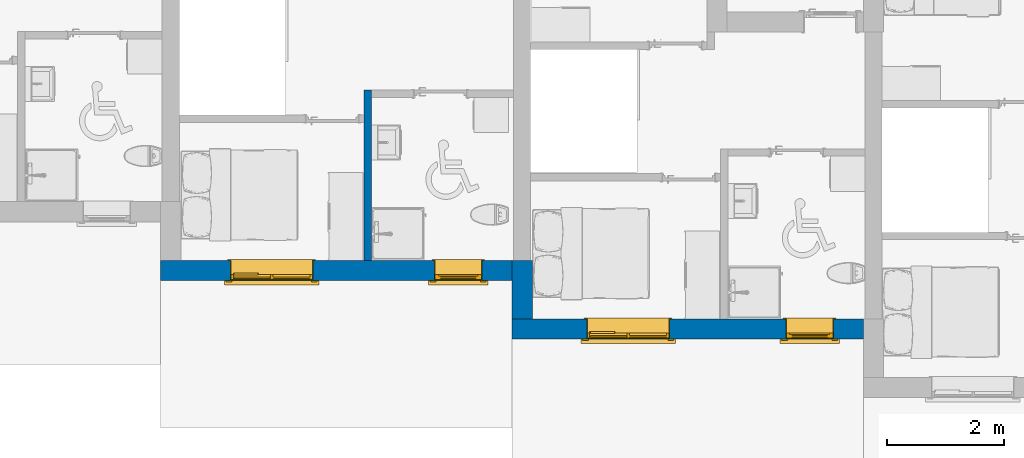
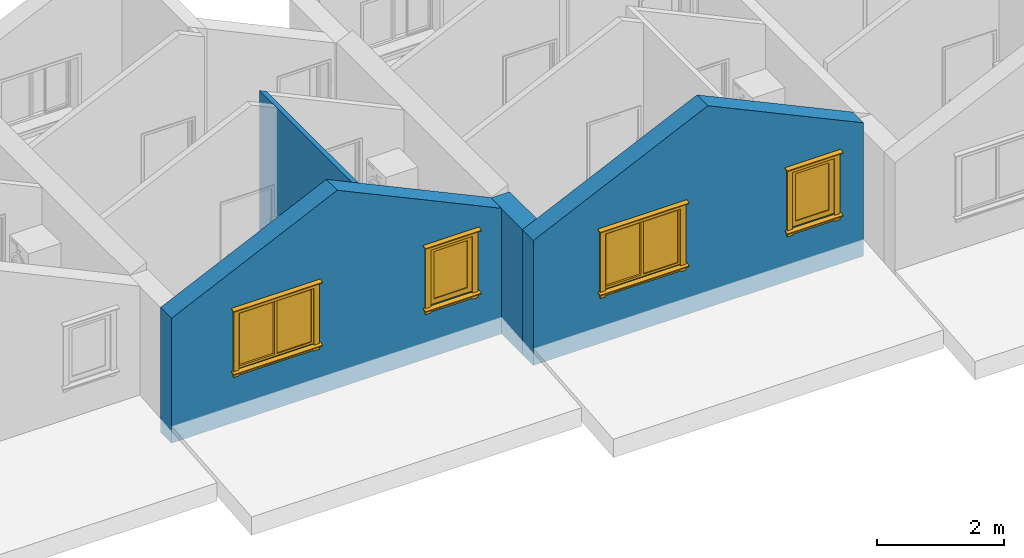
# One storey, part 8 of 44: 4 walls, 4 windows, 4 openings.
"""IFC2X3 building model written with IfcOpenShell, lengths in millimetres."""

from ifc_helpers import new_model, entity, si_unit, converted_unit, direction, frame, frame_2d, origin, place, context, subcontext, project, spatial, polyline, rectangle, extrude, clip, bounded_halfspace, faceted_brep, source, transform, mapped, material, material_list, layer, layer_set, layer_usage, type_object, type_shapes, element, fill, save


model = new_model("IFC2X3")

# Units and contexts
model_context = context("Model", 3, precision=0.01, world=origin(), true_north=direction((0.0, 1.0)))
body_context = subcontext(model_context, "Body", "Model", "MODEL_VIEW")
ifc_project = project(units=[si_unit("LENGTHUNIT", "METRE", prefix="MILLI"), si_unit("AREAUNIT", "SQUARE_METRE"), si_unit("VOLUMEUNIT", "CUBIC_METRE"), converted_unit("PLANEANGLEUNIT", "DEGREE", entity("IfcPlaneAngleMeasure", 0.017453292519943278), si_unit("PLANEANGLEUNIT", "RADIAN"), dimensions=[0, 0, 0, 0, 0, 0, 0])], contexts=[model_context])

# Site, building, storey
site_placement = place(None, origin())
site = spatial("IfcSite", under=ifc_project, at=site_placement, Name="Default", CompositionType="ELEMENT")
building_placement = place(site_placement, origin())
building = spatial("IfcBuilding", under=site, at=building_placement, CompositionType="ELEMENT")
storey_placement = place(building_placement, frame((0.0, 0.0, 2681.0)))
storey = spatial("IfcBuildingStorey", under=building, at=storey_placement, Name="Et. 2", CompositionType="ELEMENT", Elevation=2681.0)

# Wall, openings, windows
ifc_material_1 = material(Name="Vegg - Stående Kledning_smal - HVIT")
ifc_layer_1 = layer(ifc_material_1, 19.0)
ifc_material_2 = material(Name="Vegg - Utlekting")
ifc_layer_2 = layer(ifc_material_2, 36.0)
ifc_layer_3 = layer(ifc_material_2, 23.0)
ifc_material_3 = material(Name="Vegg - Gips - GU")
ifc_layer_4 = layer(ifc_material_3, 9.0)
ifc_material_4 = material(Name="Vegg - Stender - Isolert")
ifc_layer_5 = layer(ifc_material_4, 198.0)
ifc_material_5 = material(Name="Vegg - Påforing - Isolert")
ifc_layer_6 = layer(ifc_material_5, 48.0)
ifc_material_6 = material(Name="Vegg - Gips - Hvit")
ifc_layer_7 = layer(ifc_material_6, 13.000000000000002)
ifc_layer_set_1 = layer_set([ifc_layer_1, ifc_layer_2, ifc_layer_3, ifc_layer_4, ifc_layer_5, ifc_layer_6, ifc_layer_7], Name="Basic Wall:23-Kv(sm)TIG-19_36_23_9_198_48_13")
ifc_layer_usage_1 = layer_usage(ifc_layer_set_1, "AXIS2", "NEGATIVE", 173.0)
wall_type_1 = type_object("IfcWallType", Name="Basic Wall:23-Kv(sm)TIG-19_36_23_9_198_48_13", PredefinedType="STANDARD", material=ifc_layer_set_1)
wall_1_placement = place(storey_placement, frame((28005.009586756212, 9581.180957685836, 0.0), z_axis=(0.0, 0.0, 1.0), x_axis=(-1.0, 0.0, 0.0)))
wall_1 = element("IfcWallStandardCase", 1, at=wall_1_placement, inside=storey, type_object=wall_type_1, material=ifc_layer_usage_1, Name="Basic Wall:23-Kv(sm)TIG-19_36_23_9_198_48_13", context=body_context, shape_type="Clipping", body=[
    clip(clip(extrude(rectangle(XDim=6000.000000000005, YDim=346.0000000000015, at=frame_2d((3000.0000000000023, -1.1368683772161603e-12), x_axis=(-1.0, 0.0))), origin(), (0.0, 0.0, 1.0), 3879.5941993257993), bounded_halfspace(frame((2827.0, -173.0, 3879.594199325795), z_axis=(0.42261826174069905, 0.0, 0.9063077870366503), x_axis=(0.0, 1.0, 0.0)), False, frame((2827.0, -173.0, 3879.594199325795)), polyline([(0.0, 0.0), (3173.0, 0.0), (3173.0, 346.0), (0.0, 346.0), (0.0, 0.0)]))), bounded_halfspace(frame((0.0, -173.0, 2561.3424497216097), z_axis=(-0.42261826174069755, 0.0, 0.9063077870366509), x_axis=(0.0, -1.0, 0.0)), False, frame((0.0, -173.0, 2561.3424497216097)), polyline([(0.0, 0.0), (2314.0, 0.0), (2440.0, 0.0), (2827.0, 0.0), (2827.0, 346.0), (0.0, 346.0), (0.0, 0.0)]))),
])
opening_1_placement = place(wall_1_placement, frame((3313.0, -173.0, 990.0)))
opening_1 = element("IfcOpeningElement", 2, at=opening_1_placement, cuts=wall_1, Name="2 ruter vert-post åpning-fast m omramming:14x11M:1", ObjectType="Opening", context=body_context, shape_type="SweptSolid", body=[
    extrude(rectangle(XDim=1410.0000000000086, YDim=1109.9999999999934, at=frame_2d((554.9999999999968, 705.0000000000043), x_axis=(0.0, -1.0))), frame((0.0, 0.0, 0.0), z_axis=(0.0, 1.0, 0.0), x_axis=(0.0, 0.0, 1.0)), (0.0, 0.0, 1.0), 346.0),
])
opening_2_placement = place(wall_1_placement, frame((513.0, -173.0, 990.0)))
opening_2 = element("IfcOpeningElement", 3, at=opening_2_placement, cuts=wall_1, Name="Hel Rute Åpningsvindu m omramming:8x11M:1", ObjectType="Opening", context=body_context, shape_type="SweptSolid", body=[
    extrude(rectangle(XDim=809.9999999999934, YDim=1109.9999999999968, at=frame_2d((554.9999999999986, 404.9999999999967), x_axis=(0.0, -1.0))), frame((0.0, 0.0, 0.0), z_axis=(0.0, 1.0, 0.0), x_axis=(0.0, 0.0, 1.0)), (0.0, 0.0, 1.0), 346.0),
])
ifc_material_7 = material(Name="Omramming")
ifc_material_8 = material(Name="Glass - Klart")
ifc_material_9 = material(Name="Karm")
ifc_material_list_1 = material_list([ifc_material_7, ifc_material_8, ifc_material_9])
window_style_1 = type_object("IfcWindowStyle", Name="2 ruter vert-post åpning-fast m omramming:14x11M", ConstructionType="NOTDEFINED", OperationType="NOTDEFINED", ParameterTakesPrecedence=False, Sizeable=False, material=ifc_material_list_1)
shared_shape_1 = source(origin(), body_context, "Body", "Brep", [
    faceted_brep([(-73.0, 368.0, 1199.153701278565), (25.0, 368.0, 1199.153701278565), (25.0, 368.0, 4.105117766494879), (-73.0, 368.0, 4.105117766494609), (1385.0, 346.0, -110.0), (1483.0, 346.0, -110.0), (1483.0, 346.0, -12.776075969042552), (1513.0, 346.0, -12.776075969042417), (1513.0, 346.0, 10.0), (1483.0, 346.0, 10.0), (1483.0, 346.0, 1199.153701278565), (1385.0, 346.0, 1199.153701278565), (1385.0, 346.0, 10.0), (25.0, 346.0, 10.0), (25.0, 346.0, 1199.153701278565), (-73.0, 346.0, 1199.153701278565), (-73.0, 346.0, 10.0), (-103.0, 346.0, 10.0), (-103.0, 346.0, -12.776075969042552), (-73.0, 346.0, -12.776075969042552), (-73.0, 346.0, -110.0), (25.0, 346.0, -110.0), (25.0, 346.0, -12.776075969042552), (1385.0, 346.0, -12.776075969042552), (1483.0, 368.0, 1199.153701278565), (1385.0, 368.0, 1199.153701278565), (1483.0, 368.0, 4.105117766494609), (1385.0, 368.0, -110.0), (1483.0, 368.0, -110.0), (1385.0, 368.0, 4.105117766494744), (-73.0, 368.0, -110.0), (25.0, 368.0, -110.0), (-103.0, 413.6148078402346, -30.89340912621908), (-103.0, 419.3088268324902, -9.643040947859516), (1513.0, 413.6148078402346, -30.89340912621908), (1513.0, 419.3088268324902, -9.643040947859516), (1483.0, 368.0, -18.670958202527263), (1385.0, 368.0, -18.670958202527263), (25.0, 368.0, -18.670958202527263), (-73.0, 368.0, -18.670958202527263)], [[[0, 1, 2, 3]], [[4, 5, 6, 7, 8, 9, 10, 11, 12, 13, 14, 15, 16, 17, 18, 19, 20, 21, 22, 23]], [[24, 25, 11, 10]], [[24, 10, 9, 26]], [[27, 28, 5, 4]], [[11, 25, 29, 12]], [[1, 0, 15, 14]], [[1, 14, 13, 2]], [[30, 31, 21, 20]], [[15, 0, 3, 16]], [[32, 18, 17, 33]], [[34, 35, 8, 7]], [[18, 32, 34, 7, 6, 36, 37, 23, 22, 38, 39, 19]], [[33, 17, 16, 3, 2, 13, 12, 29, 26, 9, 8, 35]], [[32, 33, 35, 34]], [[30, 20, 19, 39]], [[21, 31, 38, 22]], [[27, 4, 23, 37]], [[5, 28, 36, 6]], [[31, 30, 39, 38]], [[25, 24, 26, 29]], [[28, 27, 37, 36]]]),
    faceted_brep([(1513.0, 413.52687511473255, 1180.8011105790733), (1513.0, 418.4444369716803, 1199.153701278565), (1513.0, 346.0, 1218.5651296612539), (1513.0, 346.0, 1198.894882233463), (-103.0, 413.52687511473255, 1180.8011105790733), (-103.0, 346.0, 1198.894882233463), (-103.0, 346.0, 1218.5651296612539), (-103.0, 418.4444369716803, 1199.153701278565)], [[[0, 1, 2, 3]], [[4, 5, 6, 7]], [[1, 0, 4, 7]], [[2, 1, 7, 6]], [[3, 2, 6, 5]], [[0, 3, 5, 4]]]),
    faceted_brep([(25.0, 368.0, 1193.0), (1385.0, 368.0, 1193.0), (1385.0, 368.0, 1095.0), (25.0, 368.0, 1095.0), (25.0, 346.0, 1193.0), (25.0, 346.0, 1095.0), (1385.0, 346.0, 1095.0), (1385.0, 346.0, 1193.0)], [[[0, 1, 2, 3]], [[4, 5, 6, 7]], [[1, 0, 4, 7]], [[2, 1, 7, 6]], [[3, 2, 6, 5]], [[0, 3, 5, 4]]]),
    faceted_brep([(1385.0, 368.0, -20.0), (25.0, 368.0, -20.0), (25.0, 346.0, -20.0), (1385.0, 346.0, -20.0), (1385.0, 368.0, -92.0), (1385.0, 346.0, -92.0), (25.0, 368.0, -92.0), (25.0, 346.0, -92.0)], [[[0, 1, 2, 3]], [[4, 0, 3, 5]], [[6, 4, 5, 7]], [[1, 6, 7, 2]], [[2, 7, 5, 3]], [[1, 0, 4, 6]]]),
    faceted_brep([(1345.0, 288.49999999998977, 65.0), (1345.0, 288.4999999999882, 1045.0), (735.0, 288.4999999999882, 1045.0), (735.0, 288.49999999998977, 65.0), (1345.0, 313.49999999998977, 65.0), (735.0, 313.49999999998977, 65.0), (735.0, 313.4999999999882, 1045.0), (1345.0, 313.4999999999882, 1045.0)], [[[0, 1, 2, 3]], [[4, 5, 6, 7]], [[1, 0, 4, 7]], [[2, 1, 7, 6]], [[3, 2, 6, 5]], [[0, 3, 5, 4]]]),
    faceted_brep([(720.0, 331.0, 50.0), (720.0, 331.0, 1060.0), (720.0, 239.0, 1060.0), (720.0, 239.0, 50.0), (1400.0, 239.0, 10.0), (1400.0, 239.0, 1100.0), (10.0, 239.0, 1100.0), (10.0, 239.0, 10.0), (680.0, 239.0, 1060.0), (680.0, 239.0, 50.0), (50.0, 239.0, 50.0), (50.0, 239.0, 1060.0), (925.0, 239.0, 1060.0), (1360.0, 239.0, 1060.0), (1360.0, 239.0, 50.0), (925.0, 239.0, 50.0), (680.0, 331.0, 1060.0), (680.0, 331.0, 50.0), (1360.0, 331.0, 50.0), (1360.0, 331.0, 1060.0), (50.0, 331.0, 1060.0), (50.0, 331.0, 50.0), (1400.0, 331.0, 1100.0), (1400.0, 331.0, 10.0), (10.0, 331.0, 10.0), (10.0, 331.0, 1100.0), (1360.0, 248.0, 50.0), (1360.0, 248.0, 1060.0), (925.0, 248.0, 1060.0), (940.0, 216.0, 65.0), (940.0, 248.0, 65.0), (940.0, 248.0, 1045.0), (940.0, 216.0, 1045.0), (1345.0, 248.0, 1045.0), (1345.0, 216.0, 1045.0), (1345.0, 248.0, 65.0), (1345.0, 216.0, 65.0), (925.0, 248.0, 50.0), (925.0, 216.0, 50.0), (925.0, 216.0, 1060.0), (1360.0, 216.0, 1060.0), (1360.0, 216.0, 50.0)], [[[0, 1, 2, 3]], [[4, 5, 6, 7], [8, 9, 10, 11], [3, 2, 12, 13, 14, 15]], [[9, 8, 16, 17]], [[1, 0, 18, 19], [17, 16, 20, 21], [22, 23, 24, 25]], [[4, 23, 22, 5]], [[19, 18, 26, 27]], [[5, 22, 25, 6]], [[1, 19, 27, 28, 12, 2]], [[6, 25, 24, 7]], [[20, 11, 10, 21]], [[23, 4, 7, 24]], [[21, 10, 9, 17]], [[29, 30, 31, 32]], [[32, 31, 33, 34]], [[34, 33, 35, 36]], [[30, 29, 36, 35]], [[31, 30, 35, 33], [37, 28, 27, 26]], [[38, 39, 12, 28, 37, 15]], [[39, 40, 13, 12]], [[40, 41, 14, 13]], [[29, 32, 34, 36], [39, 38, 41, 40]], [[41, 38, 15, 14]], [[18, 0, 3, 15, 37, 26]], [[11, 20, 16, 8]]], outer=[[True], [True, False, False], [True], [False, False, True], [True], [True], [True], [True], [True], [True], [True], [True], [True], [True], [True], [True], [False, True], [True], [True], [True], [False, True], [True], [True], [True]]),
    faceted_brep([(680.0, 288.49999999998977, 50.0), (680.0, 288.4999999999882, 1060.0), (50.0, 288.4999999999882, 1060.0), (50.0, 288.49999999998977, 50.0), (680.0, 313.49999999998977, 50.0), (50.0, 313.49999999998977, 50.0), (50.0, 313.4999999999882, 1060.0), (680.0, 313.4999999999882, 1060.0)], [[[0, 1, 2, 3]], [[4, 5, 6, 7]], [[1, 0, 4, 7]], [[2, 1, 7, 6]], [[3, 2, 6, 5]], [[0, 3, 5, 4]]]),
    faceted_brep([(1410.0, 239.0, 1110.0), (1410.0, 239.0, 0.0), (0.0, 239.0, 0.0), (0.0, 239.0, 1110.0), (10.0, 239.0, 10.0), (1400.0, 239.0, 10.0), (1400.0, 239.0, 1100.0), (10.0, 239.0, 1100.0), (1410.0, 0.0, 1110.0), (0.0, 0.0, 1110.0), (0.0, 0.0, 0.0), (1410.0, 0.0, 0.0), (10.0, 0.0, 10.0), (10.0, 0.0, 1100.0), (1400.0, 0.0, 1100.0), (1400.0, 0.0, 10.0)], [[[0, 1, 2, 3], [4, 5, 6, 7]], [[8, 9, 10, 11], [12, 13, 14, 15]], [[1, 0, 8, 11]], [[2, 1, 11, 10]], [[3, 2, 10, 9]], [[0, 3, 9, 8]], [[5, 4, 12, 15]], [[6, 5, 15, 14]], [[7, 6, 14, 13]], [[4, 7, 13, 12]]]),
    faceted_brep([(1405.0, -12.0, 1105.0), (1405.0, 0.0, 1105.0), (1405.0, 0.0, 5.0), (1405.0, -12.0, 5.0), (1457.0, 0.0, 1157.0), (1457.0, -12.0, 1157.0), (1457.0, -12.0, -47.0), (1457.0, 0.0, -47.0), (5.0, 0.0, 5.0), (5.0, -12.0, 5.0), (-47.0, -12.0, -47.0), (-47.0, 0.0, -47.0), (5.0, 0.0, 1105.0), (5.0, -12.0, 1105.0), (-47.0, -12.0, 1157.0), (-47.0, 0.0, 1157.0)], [[[0, 1, 2, 3]], [[4, 5, 6, 7]], [[3, 2, 8, 9]], [[7, 6, 10, 11]], [[9, 8, 12, 13]], [[11, 10, 14, 15]], [[7, 11, 15, 4], [1, 12, 8, 2]], [[13, 12, 1, 0]], [[3, 9, 13, 0], [5, 14, 10, 6]], [[15, 14, 5, 4]]], outer=[[True], [True], [True], [True], [True], [True], [True, False], [True], [False, True], [True]]),
])
type_shapes(window_style_1, [shared_shape_1])
window_1_placement = place(opening_1_placement, origin())
window_1 = element("IfcWindow", 4, at=window_1_placement, inside=storey, type_object=window_style_1, material=ifc_material_list_1, Name="2 ruter vert-post åpning-fast m omramming:14x11M", OverallHeight=1109.9999999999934, OverallWidth=1410.0000000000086, context=body_context, shape_type="MappedRepresentation", body=[
    mapped(shared_shape_1, transform((0.0, 0.0, 0.0), scale=1.0)),
])
fill(opening_1, window_1)
ifc_material_list_2 = material_list([ifc_material_7, ifc_material_9, ifc_material_8])
window_style_2 = type_object("IfcWindowStyle", Name="Hel Rute Åpningsvindu m omramming:8x11M", ConstructionType="NOTDEFINED", OperationType="NOTDEFINED", ParameterTakesPrecedence=False, Sizeable=False, material=ifc_material_list_2)
shared_shape_2 = source(origin(), body_context, "Body", "Brep", [
    faceted_brep([(-73.0, 368.0, 1189.1537012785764), (25.0, 368.0, 1189.1537012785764), (25.0, 368.0, -5.894882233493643), (-73.0, 368.0, -5.894882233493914), (785.0, 346.0, -120.0), (883.0, 346.0, -120.0), (883.0, 346.0, -22.776075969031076), (913.0, 346.0, -22.77607596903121), (913.0, 346.0, 0.0), (883.0, 346.0, 0.0), (883.0, 346.0, 1189.1537012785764), (785.0, 346.0, 1189.1537012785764), (785.0, 346.0, 0.0), (25.0, 346.0, 0.0), (25.0, 346.0, 1189.1537012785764), (-73.0, 346.0, 1189.1537012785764), (-73.0, 346.0, 0.0), (-103.0, 346.0, 0.0), (-103.0, 346.0, -22.776075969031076), (-73.0, 346.0, -22.776075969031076), (-73.0, 346.0, -120.0), (25.0, 346.0, -120.0), (25.0, 346.0, -22.776075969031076), (785.0, 346.0, -22.776075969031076), (883.0, 368.0, 1189.1537012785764), (785.0, 368.0, 1189.1537012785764), (883.0, 368.0, -5.894882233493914), (785.0, 368.0, -120.0), (883.0, 368.0, -120.0), (785.0, 368.0, -5.894882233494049), (-73.0, 368.0, -120.0), (25.0, 368.0, -120.0), (-103.0, 413.6148078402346, -40.89340912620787), (-103.0, 419.3088268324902, -19.64304094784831), (913.0, 413.6148078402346, -40.89340912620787), (913.0, 419.3088268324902, -19.64304094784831), (883.0, 368.0, -28.67095820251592), (785.0, 368.0, -28.670958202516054), (25.0, 368.0, -28.67095820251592), (-73.0, 368.0, -28.670958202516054)], [[[0, 1, 2, 3]], [[4, 5, 6, 7, 8, 9, 10, 11, 12, 13, 14, 15, 16, 17, 18, 19, 20, 21, 22, 23]], [[24, 25, 11, 10]], [[24, 10, 9, 26]], [[27, 28, 5, 4]], [[11, 25, 29, 12]], [[1, 0, 15, 14]], [[1, 14, 13, 2]], [[30, 31, 21, 20]], [[15, 0, 3, 16]], [[32, 18, 17, 33]], [[34, 35, 8, 7]], [[18, 32, 34, 7, 6, 36, 37, 23, 22, 38, 39, 19]], [[33, 17, 16, 3, 2, 13, 12, 29, 26, 9, 8, 35]], [[32, 33, 35, 34]], [[30, 20, 19, 39]], [[21, 31, 38, 22]], [[27, 4, 23, 37]], [[5, 28, 36, 6]], [[31, 30, 39, 38]], [[25, 24, 26, 29]], [[28, 27, 37, 36]]]),
    faceted_brep([(913.0, 413.52687511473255, 1170.8011105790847), (913.0, 418.4444369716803, 1189.1537012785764), (913.0, 346.0, 1208.5651296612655), (913.0, 346.0, 1188.8948822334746), (-103.0, 413.52687511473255, 1170.8011105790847), (-103.0, 346.0, 1188.8948822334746), (-103.0, 346.0, 1208.5651296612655), (-103.0, 418.4444369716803, 1189.1537012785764)], [[[0, 1, 2, 3]], [[4, 5, 6, 7]], [[1, 0, 4, 7]], [[2, 1, 7, 6]], [[3, 2, 6, 5]], [[0, 3, 5, 4]]]),
    faceted_brep([(25.0, 368.0, 1183.0), (785.0, 368.0, 1183.0), (785.0, 368.0, 1085.0), (25.0, 368.0, 1085.0), (25.0, 346.0, 1183.0), (25.0, 346.0, 1085.0), (785.0, 346.0, 1085.0), (785.0, 346.0, 1183.0)], [[[0, 1, 2, 3]], [[4, 5, 6, 7]], [[1, 0, 4, 7]], [[2, 1, 7, 6]], [[3, 2, 6, 5]], [[0, 3, 5, 4]]]),
    faceted_brep([(785.0, 368.0, -30.0), (25.0, 368.0, -30.0), (25.0, 346.0, -30.0), (785.0, 346.0, -30.0), (785.0, 368.0, -102.0), (785.0, 346.0, -102.0), (25.0, 368.0, -102.0), (25.0, 346.0, -102.0)], [[[0, 1, 2, 3]], [[4, 0, 3, 5]], [[6, 4, 5, 7]], [[1, 6, 7, 2]], [[2, 7, 5, 3]], [[1, 0, 4, 6]]]),
    faceted_brep([(100.0, 271.0, 100.0), (100.0, 331.0, 100.0), (100.0, 331.0, 1010.0), (100.0, 271.0, 1010.0), (50.0, 331.0, 50.0), (50.0, 271.0, 50.0), (50.0, 271.0, 1060.0), (50.0, 331.0, 1060.0), (710.0, 331.0, 1010.0), (710.0, 271.0, 1010.0), (760.0, 271.0, 1060.0), (760.0, 331.0, 1060.0), (710.0, 331.0, 100.0), (710.0, 271.0, 100.0), (760.0, 271.0, 50.0), (760.0, 331.0, 50.0)], [[[0, 1, 2, 3]], [[4, 5, 6, 7]], [[3, 2, 8, 9]], [[7, 6, 10, 11]], [[9, 8, 12, 13]], [[11, 10, 14, 15]], [[13, 12, 1, 0]], [[3, 9, 13, 0], [5, 14, 10, 6]], [[15, 14, 5, 4]], [[7, 11, 15, 4], [1, 12, 8, 2]]], outer=[[True], [True], [True], [True], [True], [True], [True], [False, True], [True], [True, False]]),
    faceted_brep([(710.0, 288.4999999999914, 100.0), (710.0, 288.49999999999, 1010.0), (100.0, 288.49999999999, 1010.0), (100.0, 288.4999999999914, 100.0), (710.0, 313.4999999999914, 100.0), (100.0, 313.4999999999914, 100.0), (100.0, 313.49999999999, 1010.0), (710.0, 313.49999999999, 1010.0)], [[[0, 1, 2, 3]], [[4, 5, 6, 7]], [[1, 0, 4, 7]], [[2, 1, 7, 6]], [[3, 2, 6, 5]], [[0, 3, 5, 4]]]),
    faceted_brep([(800.0, 239.0, 10.0), (800.0, 331.0, 10.0), (800.0, 331.0, 1100.0), (800.0, 239.0, 1100.0), (760.0, 331.0, 1060.0), (760.0, 331.0, 50.0), (760.0, 271.0, 50.0), (760.0, 271.0, 1060.0), (10.0, 331.0, 1100.0), (10.0, 239.0, 1100.0), (50.0, 331.0, 1060.0), (50.0, 271.0, 1060.0), (10.0, 331.0, 10.0), (10.0, 239.0, 10.0), (50.0, 331.0, 50.0), (50.0, 271.0, 50.0), (65.0, 239.0, 65.0), (65.0, 239.0, 1045.0), (745.0, 239.0, 1045.0), (745.0, 239.0, 65.0), (65.0, 271.0, 65.0), (65.0, 271.0, 1045.0), (745.0, 271.0, 1045.0), (745.0, 271.0, 65.0)], [[[0, 1, 2, 3]], [[4, 5, 6, 7]], [[3, 2, 8, 9]], [[10, 4, 7, 11]], [[9, 8, 12, 13]], [[14, 10, 11, 15]], [[2, 1, 12, 8], [5, 4, 10, 14]], [[1, 0, 13, 12]], [[0, 3, 9, 13], [16, 17, 18, 19]], [[5, 14, 15, 6]], [[16, 20, 21, 17]], [[17, 21, 22, 18]], [[18, 22, 23, 19]], [[20, 16, 19, 23]], [[7, 6, 15, 11], [21, 20, 23, 22]]]),
    faceted_brep([(810.0, 239.0, 1110.0), (810.0, 239.0, 0.0), (0.0, 239.0, 0.0), (0.0, 239.0, 1110.0), (10.0, 239.0, 10.0), (800.0, 239.0, 10.0), (800.0, 239.0, 1100.0), (10.0, 239.0, 1100.0), (810.0, 0.0, 1110.0), (0.0, 0.0, 1110.0), (0.0, 0.0, 0.0), (810.0, 0.0, 0.0), (10.0, 0.0, 10.0), (10.0, 0.0, 1100.0), (800.0, 0.0, 1100.0), (800.0, 0.0, 10.0)], [[[0, 1, 2, 3], [4, 5, 6, 7]], [[8, 9, 10, 11], [12, 13, 14, 15]], [[1, 0, 8, 11]], [[2, 1, 11, 10]], [[3, 2, 10, 9]], [[0, 3, 9, 8]], [[5, 4, 12, 15]], [[6, 5, 15, 14]], [[7, 6, 14, 13]], [[4, 7, 13, 12]]]),
    faceted_brep([(5.0, -12.0, 1105.0), (5.0, 0.0, 1105.0), (805.0, 0.0, 1105.0), (805.0, -12.0, 1105.0), (-47.0, 0.0, 1157.0), (-47.0, -12.0, 1157.0), (857.0, -12.0, 1157.0), (857.0, 0.0, 1157.0), (805.0, 0.0, 5.0), (805.0, -12.0, 5.0), (857.0, -12.0, -47.0), (857.0, 0.0, -47.0), (5.0, 0.0, 5.0), (5.0, -12.0, 5.0), (-47.0, -12.0, -47.0), (-47.0, 0.0, -47.0)], [[[0, 1, 2, 3]], [[4, 5, 6, 7]], [[3, 2, 8, 9]], [[7, 6, 10, 11]], [[9, 8, 12, 13]], [[11, 10, 14, 15]], [[7, 11, 15, 4], [1, 12, 8, 2]], [[13, 12, 1, 0]], [[3, 9, 13, 0], [5, 14, 10, 6]], [[15, 14, 5, 4]]], outer=[[True], [True], [True], [True], [True], [True], [True, False], [True], [False, True], [True]]),
])
type_shapes(window_style_2, [shared_shape_2])
window_2_placement = place(opening_2_placement, origin())
window_2 = element("IfcWindow", 5, at=window_2_placement, inside=storey, type_object=window_style_2, material=ifc_material_list_2, Name="Hel Rute Åpningsvindu m omramming:8x11M", OverallHeight=1109.9999999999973, OverallWidth=809.9999999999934, context=body_context, shape_type="MappedRepresentation", body=[
    mapped(shared_shape_2, transform((0.0, 0.0, 0.0), scale=1.0)),
])
fill(opening_2, window_2)

# Wall
ifc_layer_usage_2 = layer_usage(ifc_layer_set_1, "AXIS2", "NEGATIVE", 173.0)
wall_2_placement = place(storey_placement, frame((22178.00958675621, 9754.180957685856, 0.0), z_axis=(0.0, 0.0, 1.0), x_axis=(0.0, 1.0, 0.0)))
element("IfcWallStandardCase", 6, at=wall_2_placement, inside=storey, type_object=wall_type_1, material=ifc_layer_usage_2, Name="Basic Wall:23-Kv(sm)TIG-19_36_23_9_198_48_13", context=body_context, shape_type="SweptSolid", body=[
    extrude(rectangle(XDim=1000.0000000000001, YDim=345.9999999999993, at=frame_2d((500.00000000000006, 0.0), x_axis=(-1.0, 0.0))), origin(), (0.0, 0.0, 1.0), 2400.0),
])

# Wall, openings, windows
ifc_layer_usage_3 = layer_usage(ifc_layer_set_1, "AXIS2", "NEGATIVE", 173.0)
wall_3_placement = place(storey_placement, frame((22005.00958675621, 10581.180957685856, 0.0), z_axis=(0.0, 0.0, 1.0), x_axis=(-1.0, 0.0, 0.0)))
wall_3 = element("IfcWallStandardCase", 7, at=wall_3_placement, inside=storey, type_object=wall_type_1, material=ifc_layer_usage_3, Name="Basic Wall:23-Kv(sm)TIG-19_36_23_9_198_48_13", context=body_context, shape_type="Clipping", body=[
    clip(clip(extrude(rectangle(XDim=6000.000000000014, YDim=345.9999999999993, at=frame_2d((3000.000000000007, -5.115907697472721e-13), x_axis=(-1.0, 0.0))), origin(), (0.0, 0.0, 1.0), 3805.218127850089), bounded_halfspace(frame((2986.5000000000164, -173.0, 3805.2181278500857), z_axis=(0.42261826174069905, 0.0, 0.9063077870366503), x_axis=(0.0, 1.0, 0.0)), False, frame((2986.5000000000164, -173.0, 3805.2181278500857)), polyline([(0.0, 0.0), (3013.4999999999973, 0.0), (3013.4999999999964, 346.0), (0.0, 346.0), (0.0, 0.0)]))), bounded_halfspace(frame((0.0, -173.0, 2412.590306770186), z_axis=(-0.42261826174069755, 0.0, 0.9063077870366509), x_axis=(0.0, -1.0, 0.0)), False, frame((0.0, -173.0, 2412.590306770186)), polyline([(0.0, 0.0), (2400.0, 0.0), (2526.0, 0.0), (2986.500000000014, 0.0), (2986.5000000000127, 346.0), (0.0, 346.0), (0.0, 0.0)]))),
])
opening_3_placement = place(wall_3_placement, frame((3399.0, -173.0, 990.0)))
opening_3 = element("IfcOpeningElement", 8, at=opening_3_placement, cuts=wall_3, Name="2 ruter vert-post åpning-fast m omramming:14x11M:1", ObjectType="Opening", context=body_context, shape_type="SweptSolid", body=[
    extrude(rectangle(XDim=1410.0000000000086, YDim=1109.9999999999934, at=frame_2d((554.9999999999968, 705.0000000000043), x_axis=(0.0, -1.0))), frame((0.0, 0.0, 0.0), z_axis=(0.0, 1.0, 0.0), x_axis=(0.0, 0.0, 1.0)), (0.0, 0.0, 1.0), 346.0),
])
opening_4_placement = place(wall_3_placement, frame((513.0, -173.0, 990.0)))
opening_4 = element("IfcOpeningElement", 9, at=opening_4_placement, cuts=wall_3, Name="Hel Rute Åpningsvindu m omramming:8x11M:1", ObjectType="Opening", context=body_context, shape_type="SweptSolid", body=[
    extrude(rectangle(XDim=809.9999999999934, YDim=1109.9999999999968, at=frame_2d((554.9999999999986, 404.9999999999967), x_axis=(0.0, -1.0))), frame((0.0, 0.0, 0.0), z_axis=(0.0, 1.0, 0.0), x_axis=(0.0, 0.0, 1.0)), (0.0, 0.0, 1.0), 346.0),
])
window_3_placement = place(opening_3_placement, origin())
window_3 = element("IfcWindow", 10, at=window_3_placement, inside=storey, type_object=window_style_1, material=ifc_material_list_1, Name="2 ruter vert-post åpning-fast m omramming:14x11M", OverallHeight=1109.9999999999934, OverallWidth=1410.0000000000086, context=body_context, shape_type="MappedRepresentation", body=[
    mapped(shared_shape_1, transform((0.0, 0.0, 0.0), scale=1.0)),
])
fill(opening_3, window_3)
window_4_placement = place(opening_4_placement, origin())
window_4 = element("IfcWindow", 11, at=window_4_placement, inside=storey, type_object=window_style_2, material=ifc_material_list_2, Name="Hel Rute Åpningsvindu m omramming:8x11M", OverallHeight=1109.9999999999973, OverallWidth=809.9999999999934, context=body_context, shape_type="MappedRepresentation", body=[
    mapped(shared_shape_2, transform((0.0, 0.0, 0.0), scale=1.0)),
])
fill(opening_4, window_4)

# Wall
ifc_material_10 = material(Name="Vegg - Gips - Innvendig - Hvit")
ifc_layer_8 = layer(ifc_material_10, 13.000000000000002)
ifc_material_11 = material(Name="Vegg - Stender - Stål - Isolert")
ifc_layer_9 = layer(ifc_material_11, 100.0)
ifc_layer_10 = layer(ifc_material_10, 13.000000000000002)
ifc_layer_set_2 = layer_set([ifc_layer_8, ifc_layer_9, ifc_layer_10], Name="Basic Wall:24-GSIG-13_100_13")
ifc_layer_usage_4 = layer_usage(ifc_layer_set_2, "AXIS2", "NEGATIVE", 63.00000000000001)
wall_type_2 = type_object("IfcWallType", Name="Basic Wall:24-GSIG-13_100_13", PredefinedType="STANDARD", material=ifc_layer_set_2)
wall_4_placement = place(storey_placement, frame((19542.00958675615, 13658.05871915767, 0.0), z_axis=(0.0, 0.0, 1.0), x_axis=(0.0, -1.0, 0.0)))
element("IfcWallStandardCase", 12, at=wall_4_placement, inside=storey, type_object=wall_type_2, material=ifc_layer_usage_4, Name="Basic Wall:24-GSIG-13_100_13", context=body_context, shape_type="Clipping", body=[
    clip(extrude(rectangle(XDim=2903.877761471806, YDim=125.99999999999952, at=frame_2d((1451.938880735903, -6.430411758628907e-13), x_axis=(-1.0, 0.0))), origin(), (0.0, 0.0, 1.0), 3590.4834512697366), bounded_halfspace(frame((0.0, -63.0, 3590.4834512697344), z_axis=(0.0, 0.42261826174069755, 0.9063077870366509), x_axis=(-1.0, 0.0, 0.0)), False, frame((0.0, -63.0, 3590.4834512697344)), polyline([(0.0, 0.0), (426.0, 0.0), (552.0, 0.0), (2903.8777614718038, 0.0), (2903.8777614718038, 126.0), (126.0, 126.0), (0.0, 126.0), (0.0, 0.0)]))),
])

save(model, "model.ifc")
